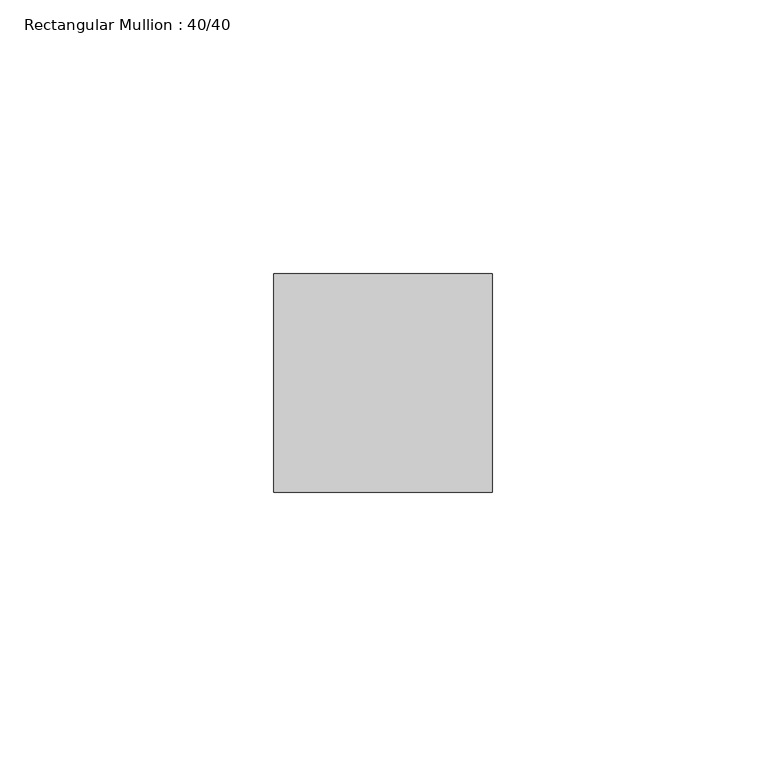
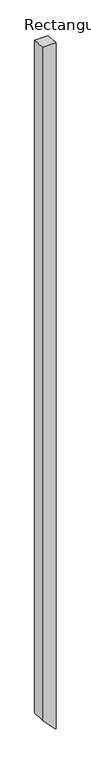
"""IFC4 building model written with IfcOpenShell, lengths in millimetres: member geometry, Rectangular Mullion : 40/40."""

from ifc_helpers import new_model, si_unit, frame, origin, place, context, project, spatial, circle_curve, source, transform, mapped, element, save
from ifc_brep_helpers import plane_surface, cylinder_surface, advanced_brep


def rectangular_mullion_40_40_f4a16c9e(model_context):
    return source(origin(), model_context, "Body", "AdvancedBrep", [
        advanced_brep(
        [(-20.0, 20.0, -1.3985362), (20.0, 20.0, -1.3985362), (20.0, 20.0, -2140.3111283), (17.0212593, 20.0, -2140.3111283), (-20.0, 20.0, -2100.7127461), (-20.0, -20.0, 1.3985362), (-20.0, -20.0, -2100.7127461), (20.0, -20.0, 1.3985362), (17.0212593, -20.0, -2140.3111283), (20.0, -20.0, -2140.3111283)],
        [
            (0, 1),
            (1, 2),
            (2, 3),
            (3, 4, circle_curve(frame((2265.8841774, 20.0, -0.7025094), z_axis=(0.0, 1.0, 0.0), x_axis=(-0.7207046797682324, 0.0, -0.6932422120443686)), 3104.0794878)),
            (4, 0),
            (5, 0),
            (4, 6),
            (6, 5),
            (7, 5),
            (6, 8, circle_curve(frame((2265.8841774, -20.0, -0.7025094), z_axis=(0.0, -1.0, 0.0), x_axis=(-0.7207046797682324, 0.0, -0.6932422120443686)), 3104.0794878)),
            (8, 9),
            (9, 7),
            (1, 7),
            (9, 2),
            (8, 3),
        ],
        [
            plane_surface(frame((20.0, 20.0, 0.0), z_axis=(0.0, 1.0, 0.0), x_axis=(0.0, 0.0, -1.0))),
            plane_surface(frame((-20.0, 20.0, 0.0), z_axis=(-1.0, 0.0, 0.0), x_axis=(0.0, 0.0, -1.0))),
            plane_surface(frame((-20.0, -20.0, 0.0), z_axis=(0.0, -1.0, 0.0), x_axis=(0.0, 0.0, -1.0))),
            plane_surface(frame((20.0, -20.0, 0.0), z_axis=(1.0, 0.0, 0.0), x_axis=(0.0, 0.0, -1.0))),
            plane_surface(frame((-304.8, 0.0, 0.0), z_axis=(0.0, 0.06975647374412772, 0.9975640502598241), x_axis=(0.0, 0.9975640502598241, -0.06975647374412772))),
            plane_surface(frame((730.0, 20.0, -2140.3111283), z_axis=(0.0, 0.0, -1.0), x_axis=(-1.0, 0.0, 0.0))),
            cylinder_surface(frame((2265.8841774, 0.0, -0.7025094), z_axis=(0.0, 1.0000000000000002, 0.0), x_axis=(-0.7207046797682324, 0.0, -0.6932422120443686)), 3104.0794878),
        ],
        [
            (0, [[1, 2, 3, 4, 5]]),
            (1, [[6, -5, 7, 8]]),
            (2, [[9, -8, 10, 11, 12]]),
            (3, [[13, -12, 14, -2]]),
            (4, [[-1, -6, -9, -13]]),
            (5, [[-14, -11, 15, -3]]),
            (6, [[-10, -7, -4, -15]]),
        ],
    ),
    ])


if __name__ == "__main__":
    model = new_model("IFC4")
    model_context = context("Model", 3, world=origin())
    ifc_project = project(units=[si_unit("LENGTHUNIT", "METRE", prefix="MILLI")], contexts=[model_context])
    site = spatial("IfcSite", under=ifc_project)
    building = spatial("IfcBuilding", under=site)
    placement = place(None, origin())
    rectangular_mullion_40_40_shape = rectangular_mullion_40_40_f4a16c9e(model_context)
    element("IfcMember", 1, ObjectType="Rectangular Mullion : 40/40", at=placement, inside=building, context=model_context, shape_type="MappedRepresentation", body=[
        mapped(rectangular_mullion_40_40_shape, transform((0.0, 0.0, 0.0), x_axis=(1.0, 0.0, 0.0), y_axis=(0.0, 1.0, 0.0), z_axis=(0.0, 0.0, 1.0))),
    ])
    save(model, "model.ifc")
